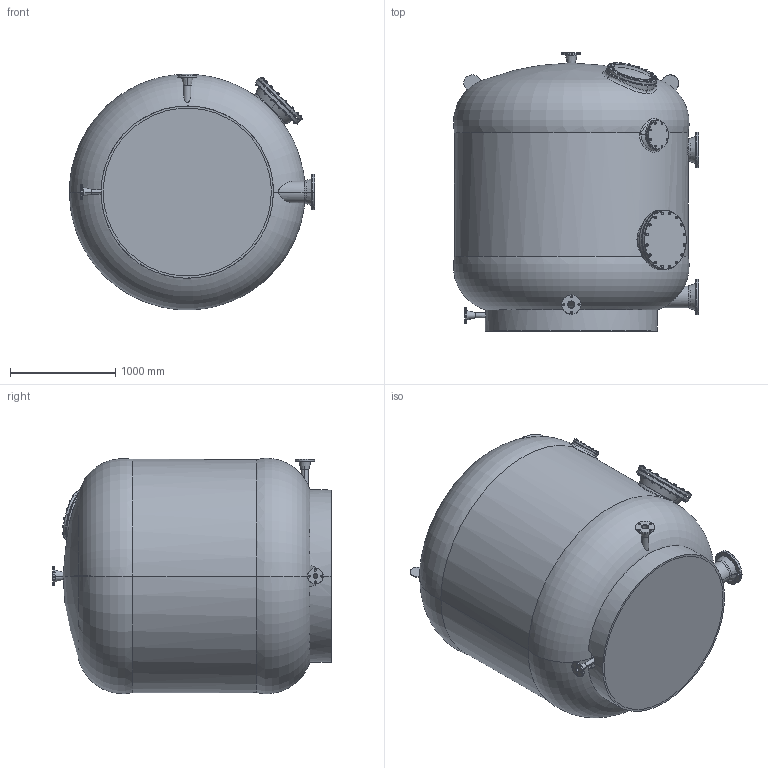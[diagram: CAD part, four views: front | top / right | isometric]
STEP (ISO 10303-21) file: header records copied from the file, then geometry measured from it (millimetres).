
FILE_DESCRIPTION (( 'STEP AP214' ), '1' );
FILE_NAME ('mediterran220c_.STEP', '2020-11-03T12:21:32', ( '' ), ( '' ), 'SwSTEP 2.0', 'SolidWorks 2019', '' );
FILE_SCHEMA (( 'AUTOMOTIVE_DESIGN' ));
Length unit declared in the file: millimetre
Products named in the file (1): mediterran220c_
Bounding box: 2333.91 x 2649.69 x 2242.34 mm (x, y, z)
Surface area: 27869910.7 mm2 (no closed solid volume)
Topology: 0 solids, 213 shells, 731 faces, 2514 edges, 1942 vertices
Faces by surface type: plane 402, cylinder 189, torus 75, cone 47, bspline 14, sphere 4
Entity records: 63328 total; most frequent: CARTESIAN_POINT 38495, ORIENTED_EDGE 3439, EDGE_CURVE 2512, B_SPLINE_CURVE_WITH_KNOTS 2192, DIRECTION 1989, VERTEX_POINT 1942, AXIS2_PLACEMENT_3D 951, EDGE_LOOP 802
